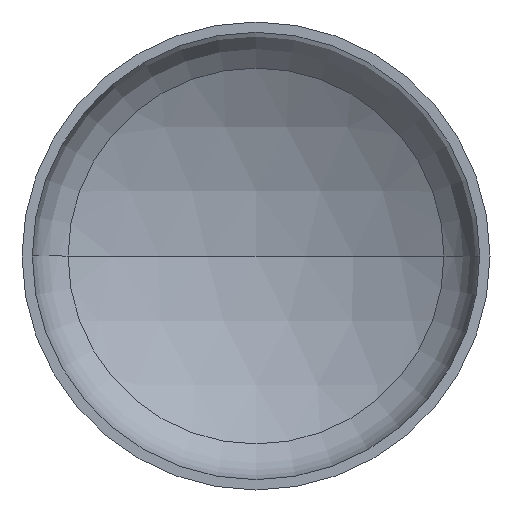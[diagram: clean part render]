
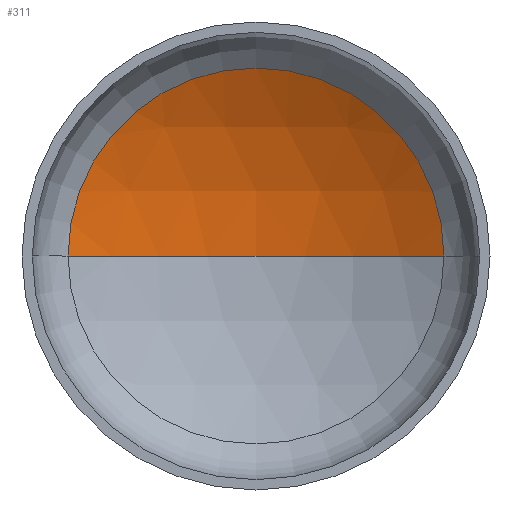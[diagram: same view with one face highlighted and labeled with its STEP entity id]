
A CAD part, front view. The second image highlights one B-rep face of the part: STEP entity #311.
In plain terms, the highlighted spherical face has radius 1200 mm.
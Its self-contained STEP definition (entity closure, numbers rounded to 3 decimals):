
#10 = EDGE_LOOP ( 'NONE', ( #135, #101, #53 ) ) ;
#25 = AXIS2_PLACEMENT_3D ( 'NONE', #130, #125, #171 ) ;
#47 = VERTEX_POINT ( 'NONE', #365 ) ;
#53 = ORIENTED_EDGE ( 'NONE', *, *, #196, .T. ) ;
#55 = AXIS2_PLACEMENT_3D ( 'NONE', #251, #245, #239 ) ;
#56 = AXIS2_PLACEMENT_3D ( 'NONE', #260, #259, #278 ) ;
#57 = AXIS2_PLACEMENT_3D ( 'NONE', #211, #224, #220 ) ;
#101 = ORIENTED_EDGE ( 'NONE', *, *, #201, .T. ) ;
#114 = VERTEX_POINT ( 'NONE', #329 ) ;
#125 = DIRECTION ( 'NONE',  ( 0., 0., -1. ) ) ;
#130 = CARTESIAN_POINT ( 'NONE',  ( 0., -738.887, 0. ) ) ;
#135 = ORIENTED_EDGE ( 'NONE', *, *, #218, .F. ) ;
#151 = VERTEX_POINT ( 'NONE', #227 ) ;
#171 = DIRECTION ( 'NONE',  ( -1., 0., 0. ) ) ;
#196 = EDGE_CURVE ( 'NONE', #114, #151, #304, .T. ) ;
#201 = EDGE_CURVE ( 'NONE', #47, #114, #363, .T. ) ;
#211 = CARTESIAN_POINT ( 'NONE',  ( 0., 298.911, 0. ) ) ;
#218 = EDGE_CURVE ( 'NONE', #47, #151, #295, .T. ) ;
#219 = FACE_OUTER_BOUND ( 'NONE', #10, .T. ) ;
#220 = DIRECTION ( 'NONE',  ( 1., 0., 0. ) ) ;
#224 = DIRECTION ( 'NONE',  ( 0., -1., 0. ) ) ;
#227 = CARTESIAN_POINT ( 'NONE',  ( -602.474, 298.911, 0. ) ) ;
#239 = DIRECTION ( 'NONE',  ( 1., 0., 0. ) ) ;
#245 = DIRECTION ( 'NONE',  ( 0., 0., 1. ) ) ;
#251 = CARTESIAN_POINT ( 'NONE',  ( 0., -738.887, 0. ) ) ;
#259 = DIRECTION ( 'NONE',  ( 0., 0., -1. ) ) ;
#260 = CARTESIAN_POINT ( 'NONE',  ( 0., -738.887, 0. ) ) ;
#278 = DIRECTION ( 'NONE',  ( -1., 0., 0. ) ) ;
#291 = SPHERICAL_SURFACE ( 'NONE', #25, 1200. ) ;
#295 = CIRCLE ( 'NONE', #55, 1200. ) ;
#304 = CIRCLE ( 'NONE', #57, 602.474 ) ;
#311 = ADVANCED_FACE ( 'NONE', ( #219 ), #291, .F. ) ;
#329 = CARTESIAN_POINT ( 'NONE',  ( 602.474, 298.911, 0. ) ) ;
#363 = CIRCLE ( 'NONE', #56, 1200. ) ;
#365 = CARTESIAN_POINT ( 'NONE',  ( 0., 461.113, 0. ) ) ;
